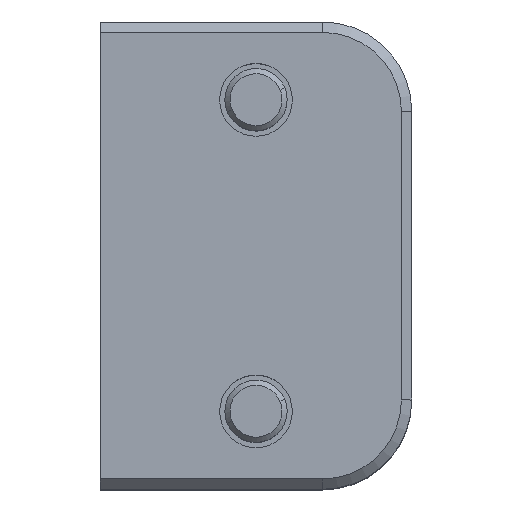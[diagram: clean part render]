
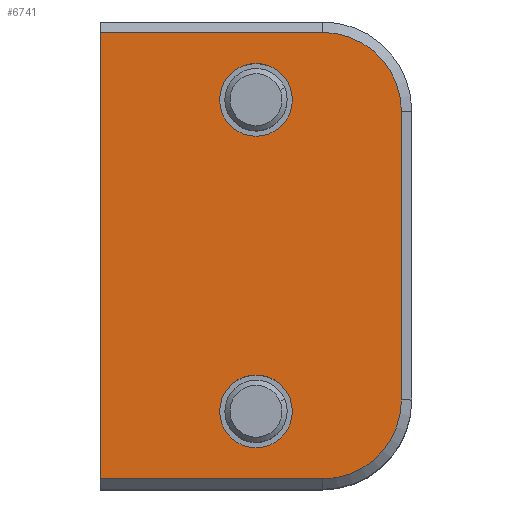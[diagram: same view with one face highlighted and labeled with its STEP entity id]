
A CAD part, top view. The second image highlights one B-rep face of the part: STEP entity #6741.
In plain terms, the highlighted planar face has unit normal (0, 0, 1).
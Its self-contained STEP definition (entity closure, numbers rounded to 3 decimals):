
#54 = ORIENTED_EDGE ( 'NONE', *, *, #11822, .T. ) ;
#149 = DIRECTION ( 'NONE',  ( 0., 1., 0. ) ) ;
#203 = DIRECTION ( 'NONE',  ( 0., 0., -1. ) ) ;
#240 = CIRCLE ( 'NONE', #3158, 3.5 ) ;
#442 = CARTESIAN_POINT ( 'NONE',  ( 0., -15., 15. ) ) ;
#485 = EDGE_CURVE ( 'NONE', #11467, #2068, #11490, .T. ) ;
#512 = CARTESIAN_POINT ( 'NONE',  ( 0., 11.5, 15. ) ) ;
#550 = CARTESIAN_POINT ( 'NONE',  ( 14., -13.9, 15. ) ) ;
#736 = EDGE_CURVE ( 'NONE', #3414, #2590, #11336, .T. ) ;
#766 = CARTESIAN_POINT ( 'NONE',  ( 14., 13.9, 15. ) ) ;
#788 = VERTEX_POINT ( 'NONE', #5437 ) ;
#913 = VECTOR ( 'NONE', #1696, 1000. ) ;
#978 = CARTESIAN_POINT ( 'NONE',  ( -15., 21.5, 15. ) ) ;
#1070 = ORIENTED_EDGE ( 'NONE', *, *, #6037, .T. ) ;
#1287 = ORIENTED_EDGE ( 'NONE', *, *, #11849, .T. ) ;
#1372 = LINE ( 'NONE', #4618, #11940 ) ;
#1449 = DIRECTION ( 'NONE',  ( 0., 0., -1. ) ) ;
#1696 = DIRECTION ( 'NONE',  ( 1., 0., 0. ) ) ;
#2068 = VERTEX_POINT ( 'NONE', #766 ) ;
#2147 = EDGE_CURVE ( 'NONE', #2068, #788, #2253, .T. ) ;
#2253 = CIRCLE ( 'NONE', #8717, 7.6 ) ;
#2590 = VERTEX_POINT ( 'NONE', #4488 ) ;
#2680 = ORIENTED_EDGE ( 'NONE', *, *, #736, .T. ) ;
#2799 = EDGE_LOOP ( 'NONE', ( #11899, #9751 ) ) ;
#2858 = EDGE_CURVE ( 'NONE', #2923, #3414, #1372, .T. ) ;
#2923 = VERTEX_POINT ( 'NONE', #978 ) ;
#2934 = EDGE_CURVE ( 'NONE', #2590, #11467, #3953, .T. ) ;
#3158 = AXIS2_PLACEMENT_3D ( 'NONE', #6894, #10536, #11614 ) ;
#3290 = DIRECTION ( 'NONE',  ( 0., 0., -1. ) ) ;
#3341 = EDGE_LOOP ( 'NONE', ( #1287, #54 ) ) ;
#3399 = EDGE_CURVE ( 'NONE', #7133, #9891, #4099, .T. ) ;
#3414 = VERTEX_POINT ( 'NONE', #5267 ) ;
#3538 = CARTESIAN_POINT ( 'NONE',  ( 0., -11.5, 15. ) ) ;
#3654 = DIRECTION ( 'NONE',  ( 0., -1., 0. ) ) ;
#3727 = CARTESIAN_POINT ( 'NONE',  ( 0., -18.5, 15. ) ) ;
#3875 = VECTOR ( 'NONE', #6660, 1000. ) ;
#3953 = CIRCLE ( 'NONE', #11459, 7.6 ) ;
#3993 = PLANE ( 'NONE',  #9535 ) ;
#4099 = CIRCLE ( 'NONE', #8289, 3.5 ) ;
#4188 = CARTESIAN_POINT ( 'NONE',  ( 0., 18.5, 15. ) ) ;
#4328 = CIRCLE ( 'NONE', #5774, 3.5 ) ;
#4405 = AXIS2_PLACEMENT_3D ( 'NONE', #4855, #203, #4900 ) ;
#4488 = CARTESIAN_POINT ( 'NONE',  ( 6.4, -21.5, 15. ) ) ;
#4618 = CARTESIAN_POINT ( 'NONE',  ( -15., -22.5, 15. ) ) ;
#4770 = CARTESIAN_POINT ( 'NONE',  ( 6.4, -13.9, 15. ) ) ;
#4842 = CARTESIAN_POINT ( 'NONE',  ( 15., 21.5, 15. ) ) ;
#4855 = CARTESIAN_POINT ( 'NONE',  ( 0., 15., 15. ) ) ;
#4900 = DIRECTION ( 'NONE',  ( 0., 1., 0. ) ) ;
#4947 = DIRECTION ( 'NONE',  ( -1., 0., 0. ) ) ;
#5012 = DIRECTION ( 'NONE',  ( -1., 0., 0. ) ) ;
#5255 = VERTEX_POINT ( 'NONE', #512 ) ;
#5267 = CARTESIAN_POINT ( 'NONE',  ( -15., -21.5, 15. ) ) ;
#5283 = DIRECTION ( 'NONE',  ( 0., 1., 0. ) ) ;
#5287 = ORIENTED_EDGE ( 'NONE', *, *, #2147, .T. ) ;
#5393 = ORIENTED_EDGE ( 'NONE', *, *, #485, .T. ) ;
#5423 = VECTOR ( 'NONE', #149, 1000. ) ;
#5437 = CARTESIAN_POINT ( 'NONE',  ( 6.4, 21.5, 15. ) ) ;
#5497 = LINE ( 'NONE', #4842, #3875 ) ;
#5774 = AXIS2_PLACEMENT_3D ( 'NONE', #8028, #3290, #5283 ) ;
#5817 = CARTESIAN_POINT ( 'NONE',  ( 14., -22.5, 15. ) ) ;
#6037 = EDGE_CURVE ( 'NONE', #788, #2923, #5497, .T. ) ;
#6070 = FACE_BOUND ( 'NONE', #2799, .T. ) ;
#6076 = VERTEX_POINT ( 'NONE', #4188 ) ;
#6360 = FACE_BOUND ( 'NONE', #3341, .T. ) ;
#6660 = DIRECTION ( 'NONE',  ( -1., 0., 0. ) ) ;
#6675 = DIRECTION ( 'NONE',  ( -1., 0., 0. ) ) ;
#6741 = ADVANCED_FACE ( 'NONE', ( #6360, #6070, #6955 ), #3993, .F. ) ;
#6801 = DIRECTION ( 'NONE',  ( 0., 0., -1. ) ) ;
#6894 = CARTESIAN_POINT ( 'NONE',  ( 0., 15., 15. ) ) ;
#6955 = FACE_OUTER_BOUND ( 'NONE', #9262, .T. ) ;
#7133 = VERTEX_POINT ( 'NONE', #3727 ) ;
#8028 = CARTESIAN_POINT ( 'NONE',  ( 0., -15., 15. ) ) ;
#8289 = AXIS2_PLACEMENT_3D ( 'NONE', #442, #1449, #11486 ) ;
#8666 = CARTESIAN_POINT ( 'NONE',  ( 6.4, 13.9, 15. ) ) ;
#8717 = AXIS2_PLACEMENT_3D ( 'NONE', #8666, #10558, #5012 ) ;
#9105 = CARTESIAN_POINT ( 'NONE',  ( 15., -21.5, 15. ) ) ;
#9262 = EDGE_LOOP ( 'NONE', ( #5287, #1070, #10293, #2680, #10527, #5393 ) ) ;
#9386 = DIRECTION ( 'NONE',  ( 0., 0., 1. ) ) ;
#9535 = AXIS2_PLACEMENT_3D ( 'NONE', #9716, #6801, #4947 ) ;
#9716 = CARTESIAN_POINT ( 'NONE',  ( 15., -22.5, 15. ) ) ;
#9751 = ORIENTED_EDGE ( 'NONE', *, *, #3399, .T. ) ;
#9891 = VERTEX_POINT ( 'NONE', #3538 ) ;
#9968 = CIRCLE ( 'NONE', #4405, 3.5 ) ;
#10293 = ORIENTED_EDGE ( 'NONE', *, *, #2858, .T. ) ;
#10527 = ORIENTED_EDGE ( 'NONE', *, *, #2934, .T. ) ;
#10536 = DIRECTION ( 'NONE',  ( 0., 0., -1. ) ) ;
#10558 = DIRECTION ( 'NONE',  ( 0., 0., 1. ) ) ;
#10973 = EDGE_CURVE ( 'NONE', #9891, #7133, #4328, .T. ) ;
#11336 = LINE ( 'NONE', #9105, #913 ) ;
#11459 = AXIS2_PLACEMENT_3D ( 'NONE', #4770, #9386, #6675 ) ;
#11467 = VERTEX_POINT ( 'NONE', #550 ) ;
#11486 = DIRECTION ( 'NONE',  ( 0., 1., 0. ) ) ;
#11490 = LINE ( 'NONE', #5817, #5423 ) ;
#11614 = DIRECTION ( 'NONE',  ( 0., 1., 0. ) ) ;
#11822 = EDGE_CURVE ( 'NONE', #5255, #6076, #9968, .T. ) ;
#11849 = EDGE_CURVE ( 'NONE', #6076, #5255, #240, .T. ) ;
#11899 = ORIENTED_EDGE ( 'NONE', *, *, #10973, .T. ) ;
#11940 = VECTOR ( 'NONE', #3654, 1000. ) ;
